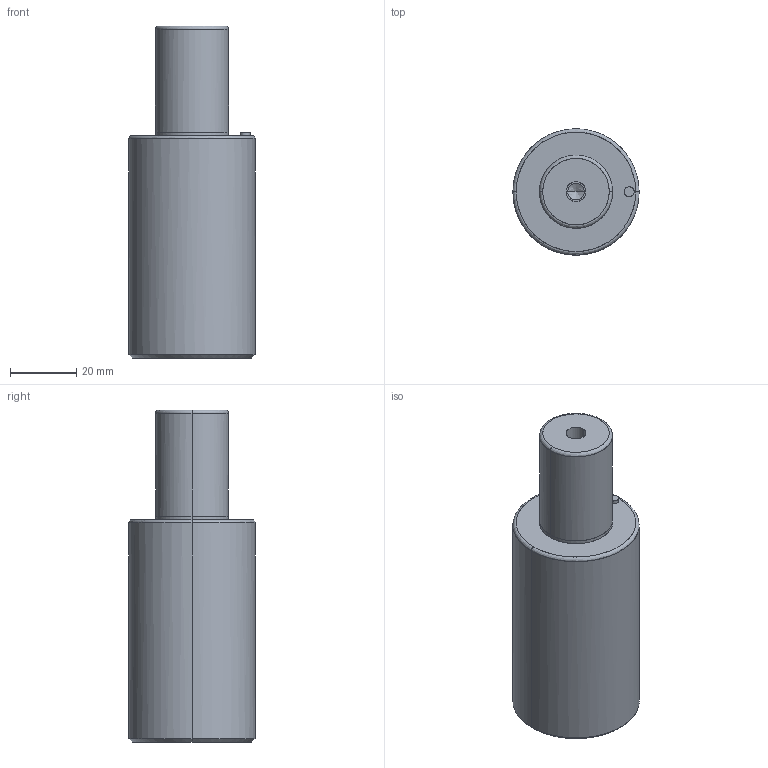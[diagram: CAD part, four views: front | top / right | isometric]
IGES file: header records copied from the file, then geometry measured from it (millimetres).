
Global section: file name: E:\UnigraphicsGraphicData\MISUMI_PRESS-PARTS\IGES\3d_gsc38-32_03829_r00.igs; native system: NX V5.0; preprocessor: UGS NX IGES V5.0; author: MISUMI; date: 20110105.160747; units: millimetre
Bounding box: 38 x 37.96 x 100 mm (x, y, z)
Surface area: 12997.5 mm2 (no closed solid volume)
Topology: 0 solids, 0 shells, 32 faces, 216 edges, 212 vertices
Faces by surface type: bspline 32
